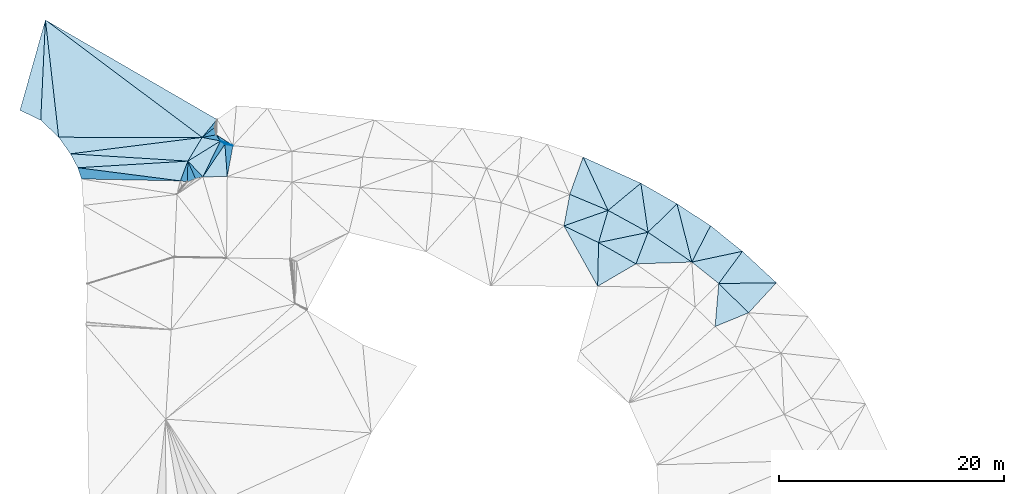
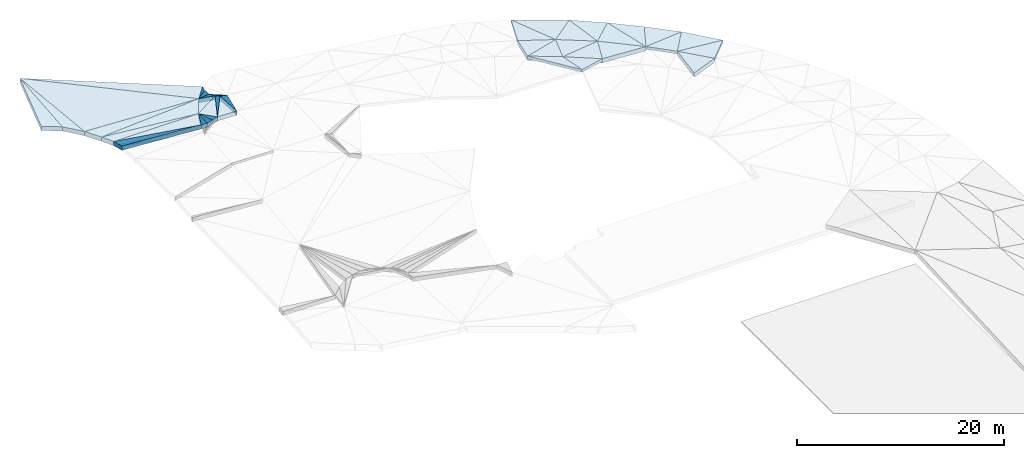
# One storey, part 9 of 23: 40 slabs, 4 elements without a shape of their own.
"""IFC2X3 building model written with IfcOpenShell, lengths in metres."""

import ifcopenshell
import ifcopenshell.guid

model = None  # the IFC model being written
_history = None  # IfcOwnerHistory: only IFC2X3 demands one
_inside = {}  # id of a spatial element -> (the spatial element, [elements in it])
_under = {}  # id of a project, library or spatial element -> (it, [spatial elements below it])
_declared = {}  # id of a project -> (the project, [libraries it declares])
_typed = {}  # id of a type object -> (the type object, [elements of that type])
_made_of = {}  # id of a material, layer set ... -> (it, [elements and type objects made of it])


def new_model(schema):
    """Start an empty IFC model of exactly this schema.

    Asked for "IFC4X3", IfcOpenShell would pick the latest addendum, in which some entities
    have other attributes; the version numbers below select the first issue.
    IFC2X3 requires an IfcOwnerHistory on every rooted entity: one is made here for all.
    """
    global model, _history
    if schema == "IFC4X3":
        model = ifcopenshell.file(schema_version=(4, 3, 0, 0))
    else:
        model = ifcopenshell.file(schema=schema)
    _inside.clear()
    _under.clear()
    _declared.clear()
    _typed.clear()
    _made_of.clear()
    _history = None
    if model.schema == "IFC2X3":
        org = make("IfcOrganization", Name="unknown")
        user = make(
            "IfcPersonAndOrganization",
            ThePerson=make("IfcPerson", FamilyName="unknown"),
            TheOrganization=org,
        )
        app = make(
            "IfcApplication",
            ApplicationDeveloper=org,
            Version="unknown",
            ApplicationFullName="unknown",
            ApplicationIdentifier="unknown",
        )
        _history = make(
            "IfcOwnerHistory",
            OwningUser=user,
            OwningApplication=app,
            ChangeAction="ADDED",
            CreationDate=0,
        )
    return model


def make(cls, **values):
    """One entity of the class cls with the attributes given. An attribute that is None is left unset."""
    return model.create_entity(
        cls, **{name: value for name, value in values.items() if value is not None}
    )


def entity(cls, *values):
    """Any entity or typed value of the class cls, its attributes in the order of the schema. None: left unset."""
    e = model.create_entity(cls)
    for i, value in enumerate(values):
        if value is not None:
            e[i] = value
    return e


def rooted(cls, **values):
    """An entity with a GlobalId (a new one), such as an element, a storey or a relation."""
    return make(cls, GlobalId=ifcopenshell.guid.new(), OwnerHistory=_history, **values)


def si_unit(unit_type, name, prefix=None):
    """IfcSIUnit, for example si_unit("LENGTHUNIT", "METRE", prefix="MILLI")."""
    return make("IfcSIUnit", UnitType=unit_type, Prefix=prefix, Name=name)


def converted_unit(unit_type, name, factor, base, dimensions=None, offset=None):
    """IfcConversionBasedUnit, such as the inch: factor (a typed value) times the base unit."""
    return make(
        "IfcConversionBasedUnit"
        if offset is None
        else "IfcConversionBasedUnitWithOffset",
        ConversionOffset=offset,
        Dimensions=None
        if dimensions is None
        else entity("IfcDimensionalExponents", *dimensions),
        UnitType=unit_type,
        Name=name,
        ConversionFactor=make(
            "IfcMeasureWithUnit", ValueComponent=factor, UnitComponent=base
        ),
    )


def assignment(units):
    """IfcUnitAssignment: the units of a project."""
    return None if units is None else make("IfcUnitAssignment", Units=units)


def point(xyz):
    """IfcCartesianPoint."""
    return None if xyz is None else make("IfcCartesianPoint", Coordinates=xyz)


def direction(xyz):
    """IfcDirection."""
    return None if xyz is None else make("IfcDirection", DirectionRatios=xyz)


def frame(location, z_axis=None, x_axis=None):
    """IfcAxis2Placement3D, a coordinate frame: its origin and axes. An axis left out is left unset."""
    return make(
        "IfcAxis2Placement3D",
        Location=point(location),
        Axis=direction(z_axis),
        RefDirection=direction(x_axis),
    )


def origin():
    """The frame at (0, 0, 0) with its axes left unset."""
    return frame((0.0, 0.0, 0.0))


def place(relative_to, where):
    """IfcLocalPlacement: puts the frame where relative to a parent placement (None: the world)."""
    return make(
        "IfcLocalPlacement", PlacementRelTo=relative_to, RelativePlacement=where
    )


def context(
    kind, dimensions, precision=None, world=None, true_north=None, identifier=None
):
    """IfcGeometricRepresentationContext, for example the 3D "Model" context."""
    return make(
        "IfcGeometricRepresentationContext",
        ContextIdentifier=identifier,
        ContextType=kind,
        CoordinateSpaceDimension=dimensions,
        Precision=precision,
        WorldCoordinateSystem=world,
        TrueNorth=true_north,
    )


def subcontext(parent, identifier, kind, view, scale=None):
    """IfcGeometricRepresentationSubContext, for example "Body" below "Model"."""
    return make(
        "IfcGeometricRepresentationSubContext",
        ContextIdentifier=identifier,
        ContextType=kind,
        ParentContext=parent,
        TargetScale=scale,
        TargetView=view,
    )


def project(units=None, contexts=None):
    """IfcProject with its units and contexts."""
    return rooted(
        "IfcProject",
        Name="project",
        RepresentationContexts=contexts,
        UnitsInContext=assignment(units),
    )


def spatial(cls, under=None, at=None, **own):
    """A site, building, storey or space (cls), placed at a placement, below another one or the project."""
    s = rooted(cls, ObjectPlacement=at, **own)
    if under is not None:
        _under.setdefault(under.id(), (under, []))[1].append(s)
    return s


def polyline(points):
    """IfcPolyline through the points."""
    return make("IfcPolyline", Points=[point(p) for p in points])


def outline(outer, holes=None, kind="AREA"):
    """IfcArbitraryClosedProfileDef: a profile drawn as a closed curve; with holes, ...WithVoids."""
    if holes is None:
        return make("IfcArbitraryClosedProfileDef", ProfileType=kind, OuterCurve=outer)
    return make(
        "IfcArbitraryProfileDefWithVoids",
        ProfileType=kind,
        OuterCurve=outer,
        InnerCurves=holes,
    )


def extrude(swept, where, along, depth):
    """IfcExtrudedAreaSolid: the profile swept, set in the frame where, extruded along a direction by depth."""
    return make(
        "IfcExtrudedAreaSolid",
        SweptArea=swept,
        Position=where,
        ExtrudedDirection=direction(along),
        Depth=depth,
    )


def shape(context_of_items, identifier, shape_type, items):
    """IfcShapeRepresentation: the items that make up one representation, for example the "Body"."""
    return make(
        "IfcShapeRepresentation",
        ContextOfItems=context_of_items,
        RepresentationIdentifier=identifier,
        RepresentationType=shape_type,
        Items=items,
    )


def material(Name=None, Category=None):
    """IfcMaterial."""
    return make("IfcMaterial", Name=Name, Category=Category)


def layer(
    of_material, thickness, ventilated=None, Name=None, Category=None, Priority=None
):
    """IfcMaterialLayer: one layer of a wall or slab, of a material (None: an air gap)."""
    return make(
        "IfcMaterialLayer",
        Material=of_material,
        LayerThickness=thickness,
        IsVentilated=ventilated,
        Name=Name,
        Category=Category,
        Priority=Priority,
    )


def layer_set(layers, Name=None):
    """IfcMaterialLayerSet."""
    return make("IfcMaterialLayerSet", MaterialLayers=layers, LayerSetName=Name)


def made_of(thing, what):
    """Note that an element or type object is made of a material, layer set ...; save() writes the relation."""
    if what is not None:
        _made_of.setdefault(what.id(), (what, []))[1].append(thing)
    return thing


def type_object(cls, material=None, **own):
    """A type object (cls), such as IfcWallType, which elements share."""
    return made_of(rooted(cls, **own), material)


def element(
    cls,
    number,
    at=None,
    inside=None,
    cuts=None,
    type_object=None,
    material=None,
    context=None,
    identifier="Body",
    shape_type=None,
    held_by="IfcProductDefinitionShape",
    body=None,
    shapes=None,
    **own,
):
    """One element of the class cls, such as IfcWall. Its Tag is "e" and its number.

    at: its placement. inside: the storey or other place that contains it. cuts: it is an
    opening in that element (IfcRelVoidsElement). A single representation is given by context,
    identifier, shape_type and body (its items); several are given by shapes. held_by: the class
    of the entity that holds the representations. save() writes the other relations.
    """
    e = rooted(cls, Tag="e%d" % number, ObjectPlacement=at, **own)
    if body is not None:
        shapes = [shape(context, identifier, shape_type, body)]
    if shapes is not None:
        e.Representation = make(held_by, Representations=shapes)
    if inside is not None:
        _inside.setdefault(inside.id(), (inside, []))[1].append(e)
    if cuts is not None:
        rooted(
            "IfcRelVoidsElement", RelatingBuildingElement=cuts, RelatedOpeningElement=e
        )
    if type_object is not None:
        _typed.setdefault(type_object.id(), (type_object, []))[1].append(e)
    return made_of(e, material)


def aggregate(whole, parts):
    """IfcRelAggregates: a whole, such as a stair, and the parts it consists of."""
    return rooted("IfcRelAggregates", RelatingObject=whole, RelatedObjects=parts)


def save(model, path):
    """Write the relations noted so far, then the file.

    IfcRelAggregates (storeys below a building ...), IfcRelContainedInSpatialStructure (elements
    in a storey), IfcRelDefinesByType, IfcRelAssociatesMaterial and IfcRelDeclares: one each for
    every whole, place, type object, material and project.
    """
    for whole, parts in _under.values():
        aggregate(whole, parts)
    for where, things in _inside.values():
        rooted(
            "IfcRelContainedInSpatialStructure",
            RelatedElements=things,
            RelatingStructure=where,
        )
    for kind, things in _typed.values():
        rooted("IfcRelDefinesByType", RelatedObjects=things, RelatingType=kind)
    for what, things in _made_of.values():
        rooted("IfcRelAssociatesMaterial", RelatedObjects=things, RelatingMaterial=what)
    for by, libraries in _declared.values():
        rooted("IfcRelDeclares", RelatingContext=by, RelatedDefinitions=libraries)
    model.write(path)


model = new_model("IFC2X3")

# Units and contexts
model_context = context("Model", 3, precision=1e-05, world=origin(), true_north=direction((0.7716245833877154, 0.6360782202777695)))
body_context = subcontext(model_context, "Body", "Model", "MODEL_VIEW")
ifc_project = project(units=[si_unit("LENGTHUNIT", "METRE"), converted_unit("PLANEANGLEUNIT", "DEGREE", entity("IfcPlaneAngleMeasure", 0.017453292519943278), si_unit("PLANEANGLEUNIT", "RADIAN"), dimensions=[0, 0, 0, 0, 0, 0, 0]), si_unit("AREAUNIT", "SQUARE_METRE")], contexts=[model_context])

# Site, building, storey
site_placement = place(None, origin())
site = spatial("IfcSite", under=ifc_project, at=site_placement, Name="Default", CompositionType="ELEMENT")
building_placement = place(site_placement, origin())
building = spatial("IfcBuilding", under=site, at=building_placement, Name="<Building Name>", CompositionType="ELEMENT")
storey_placement = place(building_placement, origin())
storey = spatial("IfcBuildingStorey", under=building, at=storey_placement, Name="00 - HAV", CompositionType="ELEMENT", Elevation=0.0)

# Slabs
slab_1_placement = place(storey_placement, frame((224.3175317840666, 93.71309800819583, 32.7900000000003)))
slab_1 = element("IfcSlab", 1, at=slab_1_placement, inside=storey, Name="Floor:771 Grøntarealer", ObjectType="Floor:771 Grøntarealer", PredefinedType="NOTDEFINED")
ifc_material_1 = material(Name="815 - Terrain, Grøntareal")
ifc_layer_1 = layer(ifc_material_1, 0.02)
ifc_material_2 = material(Name="Site - Soil - Jordlag")
ifc_layer_2 = layer(ifc_material_2, 0.30000000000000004)
ifc_layer_set_1 = layer_set([ifc_layer_1, ifc_layer_2], Name="Floor:771 Grøntarealer")
slab_type_1 = type_object("IfcSlabType", Name="Floor:771 Grøntarealer", PredefinedType="NOTDEFINED")
slab_2_placement = place(slab_1_placement, origin())
slab_2 = element("IfcSlab", 2, at=slab_2_placement, type_object=slab_type_1, material=ifc_layer_set_1, Name="Floor:771 Grøntarealer", ObjectType="Floor:771 Grøntarealer", PredefinedType="NOTDEFINED", context=body_context, shape_type="SweptSolid", body=[
    extrude(outline(polyline([(2.5223240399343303, 0.6709311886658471), (-0.8601433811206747, 2.464228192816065), (-0.9438238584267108, -1.5078112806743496), (2.5223240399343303, 0.6709311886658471)])), frame((38.51753136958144, 30.70189521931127, 4.013333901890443), z_axis=(0.19098121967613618, 0.20866909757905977, 0.9591576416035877), x_axis=(0.9815936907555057, -0.04059915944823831, -0.18661600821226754)), (0.18661600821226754, 0.21258194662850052, -0.9591576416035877), 0.3200000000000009),
])
slab_3_placement = place(slab_1_placement, origin())
slab_3 = element("IfcSlab", 3, at=slab_3_placement, type_object=slab_type_1, material=ifc_layer_set_1, Name="Floor:771 Grøntarealer", ObjectType="Floor:771 Grøntarealer", PredefinedType="NOTDEFINED", context=body_context, shape_type="SweptSolid", body=[
    extrude(outline(polyline([(1.6046446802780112, 1.2883867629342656), (-1.5211546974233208, 2.6836567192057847), (1.5211546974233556, -2.6836567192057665), (1.6046446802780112, 1.2883867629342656)])), frame((36.09451712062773, 31.94701533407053, 4.204999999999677), z_axis=(0.1790864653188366, 0.2093943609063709, 0.961291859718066), x_axis=(0.9838333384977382, -0.03811590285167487, -0.17498325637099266)), (0.17498325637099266, 0.21283519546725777, -0.961291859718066), 0.3200000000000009),
])
aggregate(slab_1, [slab_2, slab_3])

slab_4_placement = place(storey_placement, frame((227.93461709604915, 49.93152636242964, 29.770000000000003)))
slab_4 = element("IfcSlab", 4, at=slab_4_placement, inside=storey, Name="Floor:771 Grøntarealer", ObjectType="Floor:771 Grøntarealer", PredefinedType="NOTDEFINED")
slab_5_placement = place(slab_4_placement, origin())
slab_5 = element("IfcSlab", 5, at=slab_5_placement, type_object=slab_type_1, material=ifc_layer_set_1, Name="Floor:771 Grøntarealer", ObjectType="Floor:771 Grøntarealer", PredefinedType="NOTDEFINED", context=body_context, shape_type="SweptSolid", body=[
    extrude(outline(polyline([(2.7119179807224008, -0.0993393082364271), (-0.31689608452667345, 2.6951705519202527), (-2.428761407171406, -0.16191272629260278), (2.7119179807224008, -0.0993393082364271)])), frame((47.14040868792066, 73.45681839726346, 5.535892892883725), z_axis=(0.10130563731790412, -0.011814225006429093, 0.9947851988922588), x_axis=(0.9948553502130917, 0.0012030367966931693, -0.1012984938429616)), (0.1012984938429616, -0.011875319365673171, -0.9947851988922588), 0.3200000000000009),
])
slab_6_placement = place(slab_4_placement, origin())
slab_6 = element("IfcSlab", 6, at=slab_6_placement, type_object=slab_type_1, material=ifc_layer_set_1, Name="Floor:771 Grøntarealer", ObjectType="Floor:771 Grøntarealer", PredefinedType="NOTDEFINED", context=body_context, shape_type="SweptSolid", body=[
    extrude(outline(polyline([(2.548039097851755, 1.36095444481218), (-2.592296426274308, 1.274637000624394), (0.06928154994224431, -1.3170039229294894), (2.548039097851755, 1.36095444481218)])), frame((47.303274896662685, 72.00925611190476, 5.56238500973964), z_axis=(0.10064993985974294, 0.033680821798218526, 0.9943516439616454), x_axis=(0.994921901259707, -0.0034072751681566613, -0.10059225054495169)), (0.10059225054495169, 0.033852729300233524, -0.9943516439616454), 0.3200000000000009),
])
slab_7_placement = place(slab_4_placement, origin())
slab_7 = element("IfcSlab", 7, at=slab_7_placement, type_object=slab_type_1, material=ifc_layer_set_1, Name="Floor:771 Grøntarealer", ObjectType="Floor:771 Grøntarealer", PredefinedType="NOTDEFINED", context=body_context, shape_type="SweptSolid", body=[
    extrude(outline(polyline([(2.5297405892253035, 0.25929816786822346), (-0.3102082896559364, 2.524003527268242), (-1.9765035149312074, -0.7004747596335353), (2.5297405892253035, 0.25929816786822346)])), frame((44.30508411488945, 75.89588520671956, 5.825454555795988), z_axis=(0.08740548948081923, 0.016799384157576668, 0.9960311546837), x_axis=(0.9961728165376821, -0.0014739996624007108, -0.08739305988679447)), (0.08739305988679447, 0.01686392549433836, -0.9960311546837), 0.3200000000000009),
])
slab_8_placement = place(slab_4_placement, origin())
slab_8 = element("IfcSlab", 8, at=slab_8_placement, type_object=slab_type_1, material=ifc_layer_set_1, Name="Floor:771 Grøntarealer", ObjectType="Floor:771 Grøntarealer", PredefinedType="NOTDEFINED", context=body_context, shape_type="SweptSolid", body=[
    extrude(outline(polyline([(2.010351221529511, 1.6307822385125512), (-2.497760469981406, 0.6798201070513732), (-0.09959519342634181, -1.2277184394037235), (2.010351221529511, 1.6307822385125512)])), frame((44.82331533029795, 74.51974387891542, 5.776888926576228), z_axis=(0.09198785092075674, -0.004907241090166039, 0.9957480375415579), x_axis=(0.9957601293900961, 0.00045332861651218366, -0.09198673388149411)), (0.09198673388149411, -0.004928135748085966, -0.9957480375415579), 0.3200000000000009),
])
slab_9_placement = place(slab_4_placement, origin())
slab_9 = element("IfcSlab", 9, at=slab_9_placement, type_object=slab_type_1, material=ifc_layer_set_1, Name="Floor:771 Grøntarealer", ObjectType="Floor:771 Grøntarealer", PredefinedType="NOTDEFINED", context=body_context, shape_type="SweptSolid", body=[
    extrude(outline(polyline([(2.3350661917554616, 0.6371348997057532), (-0.6645507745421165, 2.5851590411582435), (0.664550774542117, -2.585159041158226), (2.3350661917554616, 0.6371348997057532)])), frame((41.675810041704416, 77.78384557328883, 6.074999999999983), z_axis=(0.1124604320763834, 0.0037418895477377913, 0.9936491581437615), x_axis=(0.9936562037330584, -0.0004235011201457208, -0.11245963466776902)), (0.11245963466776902, 0.0037657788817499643, -0.9936491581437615), 0.3200000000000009),
])
slab_10_placement = place(slab_4_placement, origin())
slab_10 = element("IfcSlab", 10, at=slab_10_placement, type_object=slab_type_1, material=ifc_layer_set_1, Name="Floor:771 Grøntarealer", ObjectType="Floor:771 Grøntarealer", PredefinedType="NOTDEFINED", context=body_context, shape_type="SweptSolid", body=[
    extrude(outline(polyline([(2.468564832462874, 0.5968334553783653), (-0.75394695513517, 2.425198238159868), (-0.11180598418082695, -1.9339937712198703), (2.468564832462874, 0.5968334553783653)])), frame((38.56009656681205, 79.77280217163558, 6.395671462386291), z_axis=(0.10322250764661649, 0.0014336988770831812, 0.9946572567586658), x_axis=(0.9946582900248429, -0.0001487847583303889, -0.10322240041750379)), (0.10322240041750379, 0.0014413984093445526, -0.9946572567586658), 0.3200000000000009),
])
slab_11_placement = place(slab_4_placement, origin())
slab_11 = element("IfcSlab", 11, at=slab_11_placement, type_object=slab_type_1, material=ifc_layer_set_1, Name="Floor:771 Grøntarealer", ObjectType="Floor:771 Grøntarealer", PredefinedType="NOTDEFINED", context=body_context, shape_type="SweptSolid", body=[
    extrude(outline(polyline([(-0.32773229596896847, 2.9150247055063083), (-2.9081191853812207, 0.3842138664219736), (1.0000384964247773, -2.255635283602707), (-0.32773229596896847, 2.9150247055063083)])), frame((41.341454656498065, 77.45419908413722, 6.110173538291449), z_axis=(0.10328219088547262, 0.0013725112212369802, 0.994651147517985), x_axis=(0.9946520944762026, -0.00014251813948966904, -0.10328209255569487)), (0.10328209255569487, 0.0013798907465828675, -0.994651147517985), 0.3200000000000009),
])
slab_12_placement = place(slab_4_placement, origin())
slab_12 = element("IfcSlab", 12, at=slab_12_placement, type_object=slab_type_1, material=ifc_layer_set_1, Name="Floor:771 Grøntarealer", ObjectType="Floor:771 Grøntarealer", PredefinedType="NOTDEFINED", context=body_context, shape_type="SweptSolid", body=[
    extrude(outline(polyline([(3.2696299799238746, 0.3867003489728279), (-1.8700317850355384, 2.7097967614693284), (0.35139291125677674, -2.0233810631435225), (3.2696299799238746, 0.3867003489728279)])), frame((34.54934999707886, 81.8090425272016, 6.705905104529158), z_axis=(0.07333115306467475, -0.009926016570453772, 0.9972582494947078), x_axis=(0.997307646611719, 0.000729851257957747, -0.07332752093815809)), (0.07332752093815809, -0.00995281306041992, -0.9972582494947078), 0.3200000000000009),
])
slab_13_placement = place(slab_4_placement, origin())
slab_13 = element("IfcSlab", 13, at=slab_13_placement, type_object=slab_type_1, material=ifc_layer_set_1, Name="Floor:771 Grøntarealer", ObjectType="Floor:771 Grøntarealer", PredefinedType="NOTDEFINED", context=body_context, shape_type="SweptSolid", body=[
    extrude(outline(polyline([(0.25824912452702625, 2.6578079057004), (-2.6589284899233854, 0.24644423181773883), (0.898451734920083, -1.7016691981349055), (0.25824912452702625, 2.6578079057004)])), frame((37.552529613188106, 79.54025482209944, 6.477668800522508), z_axis=(0.0682266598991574, -0.003735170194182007, 0.997662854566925), x_axis=(0.9976698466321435, 0.00025543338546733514, -0.0682261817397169)), (0.0682261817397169, -0.0037438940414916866, -0.997662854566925), 0.3200000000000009),
])
slab_14_placement = place(slab_4_placement, origin())
slab_14 = element("IfcSlab", 14, at=slab_14_placement, type_object=slab_type_1, material=ifc_layer_set_1, Name="Floor:771 Grøntarealer", ObjectType="Floor:771 Grøntarealer", PredefinedType="NOTDEFINED", context=body_context, shape_type="SweptSolid", body=[
    extrude(outline(polyline([(-1.1091080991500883, 2.3673411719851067), (-2.2959568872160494, -0.9420228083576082), (1.109108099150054, -2.3673411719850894), (-1.1091080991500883, 2.3673411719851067)])), frame((33.7920749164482, 82.15167918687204, 6.765), z_axis=(0.04998069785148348, -0.02091637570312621, 0.9985311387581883), x_axis=(0.9987501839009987, 0.001046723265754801, -0.04996973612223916)), (0.04996973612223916, -0.020942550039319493, -0.9985311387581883), 0.3200000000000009),
])
slab_15_placement = place(slab_4_placement, origin())
slab_15 = element("IfcSlab", 15, at=slab_15_placement, type_object=slab_type_1, material=ifc_layer_set_1, Name="Floor:771 Grøntarealer", ObjectType="Floor:771 Grøntarealer", PredefinedType="NOTDEFINED", context=body_context, shape_type="SweptSolid", body=[
    extrude(outline(polyline([(-0.7357714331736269, 0.4819132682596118), (-0.37592185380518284, -0.06389647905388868), (0.7357714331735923, -0.4819132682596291), (-0.7357714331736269, 0.4819132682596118)])), frame((0.8682996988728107, 86.01094406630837, 8.319999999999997), z_axis=(0.04786515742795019, 0.03150539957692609, 0.9983568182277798), x_axis=(0.9988538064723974, -0.0015097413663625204, -0.04784134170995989)), (0.04784134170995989, 0.03154155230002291, -0.9983568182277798), 0.3200000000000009),
])
slab_16_placement = place(slab_4_placement, origin())
slab_16 = element("IfcSlab", 16, at=slab_16_placement, type_object=slab_type_1, material=ifc_layer_set_1, Name="Floor:771 Grøntarealer", ObjectType="Floor:771 Grøntarealer", PredefinedType="NOTDEFINED", context=body_context, shape_type="SweptSolid", body=[
    extrude(outline(polyline([(-0.5567331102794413, 0.20663553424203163), (-0.1641069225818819, -0.07822351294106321), (0.5567331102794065, -0.20663553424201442), (-0.5567331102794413, 0.20663553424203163)])), frame((1.0480182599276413, 85.7379033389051, 8.320000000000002), z_axis=(0.07393090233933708, 0.1010978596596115, 0.9921257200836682), x_axis=(0.9972633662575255, -0.007494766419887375, -0.07355002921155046)), (0.07355002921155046, 0.10137528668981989, -0.9921257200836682), 0.3200000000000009),
])
aggregate(slab_4, [slab_5, slab_6, slab_7, slab_8, slab_9, slab_10, slab_11, slab_12, slab_13, slab_14, slab_15, slab_16])

slab_17_placement = place(storey_placement, frame((210.63176110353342, 32.75602782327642, 31.369999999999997)))
slab_17 = element("IfcSlab", 17, at=slab_17_placement, inside=storey, Name="Floor:761 Asfalt - Kjørearealer", ObjectType="Floor:761 Asfalt - Kjørearealer", PredefinedType="NOTDEFINED")
ifc_material_3 = material(Name="Site - Asphalt - Asfaltbetong")
ifc_layer_3 = layer(ifc_material_3, 0.03)
ifc_material_4 = material(Name="A_Default_Building_Part")
ifc_layer_4 = layer(ifc_material_4, 0.07)
ifc_material_5 = material(Name="Site - Gravel - Stabilitet grus")
ifc_layer_5 = layer(ifc_material_5, 0.2)
ifc_material_6 = material(Name="Site - Gravel - Bunnsikringsgrus")
ifc_layer_6 = layer(ifc_material_6, 0.2)
ifc_layer_set_2 = layer_set([ifc_layer_3, ifc_layer_4, ifc_layer_5, ifc_layer_6], Name="Floor:761 Asfalt - Kjørearealer")
slab_type_2 = type_object("IfcSlabType", Name="Floor:761 Asfalt - Kjørearealer", PredefinedType="NOTDEFINED")
slab_18_placement = place(slab_17_placement, origin())
slab_18 = element("IfcSlab", 18, at=slab_18_placement, type_object=slab_type_2, material=ifc_layer_set_2, Name="Floor:761 Asfalt - Kjørearealer", ObjectType="Floor:761 Asfalt - Kjørearealer", PredefinedType="NOTDEFINED", context=body_context, shape_type="SweptSolid", body=[
    extrude(outline(polyline([(4.223265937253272, -1.4656909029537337), (4.890374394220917, 0.2883804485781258), (-4.890374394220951, -0.28838044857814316), (4.223265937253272, -1.4656909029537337)])), frame((10.01901338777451, 101.04109860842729, 6.979999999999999), z_axis=(0.052303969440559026, -0.019861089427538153, 0.9984336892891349), x_axis=(0.9986312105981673, 0.0010402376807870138, -0.05229362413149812)), (0.05229362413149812, -0.019888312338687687, -0.9984336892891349), 0.49999999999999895),
])
slab_19_placement = place(slab_17_placement, origin())
slab_19 = element("IfcSlab", 19, at=slab_19_placement, type_object=slab_type_2, material=ifc_layer_set_2, Name="Floor:761 Asfalt - Kjørearealer", ObjectType="Floor:761 Asfalt - Kjørearealer", PredefinedType="NOTDEFINED", context=body_context, shape_type="SweptSolid", body=[
    extrude(outline(polyline([(4.61742823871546, -0.12394669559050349), (-4.4947775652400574, 1.0644157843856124), (-4.164237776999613, 0.06484415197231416), (4.61742823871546, -0.12394669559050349)])), frame((9.62466468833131, 99.69397341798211, 6.962433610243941), z_axis=(0.049210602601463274, -0.04371524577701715, 0.997831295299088), x_axis=(0.9987884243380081, 0.0021538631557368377, -0.04916344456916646)), (0.04916344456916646, -0.04376827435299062, -0.997831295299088), 0.49999999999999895),
])
slab_20_placement = place(slab_17_placement, origin())
slab_20 = element("IfcSlab", 20, at=slab_20_placement, type_object=slab_type_2, material=ifc_layer_set_2, Name="Floor:761 Asfalt - Kjørearealer", ObjectType="Floor:761 Asfalt - Kjørearealer", PredefinedType="NOTDEFINED", context=body_context, shape_type="SweptSolid", body=[
    extrude(outline(polyline([(4.581657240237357, -1.3905725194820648), (5.851512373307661, 0.7176893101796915), (-5.851512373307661, -0.7176893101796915), (4.581657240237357, -1.3905725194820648)])), frame((10.325619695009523, 102.71292921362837, 7.004999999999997), z_axis=(0.04471694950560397, -0.050565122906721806, 0.9977191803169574), x_axis=(0.9989996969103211, 0.002263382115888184, -0.04465963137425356)), (0.04465963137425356, -0.05061575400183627, -0.9977191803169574), 0.49999999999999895),
])
slab_21_placement = place(slab_17_placement, origin())
slab_21 = element("IfcSlab", 21, at=slab_21_placement, type_object=slab_type_2, material=ifc_layer_set_2, Name="Floor:761 Asfalt - Kjørearealer", ObjectType="Floor:761 Asfalt - Kjørearealer", PredefinedType="NOTDEFINED", context=body_context, shape_type="SweptSolid", body=[
    extrude(outline(polyline([(5.253992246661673, 0.27771793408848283), (-5.181550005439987, 0.9127438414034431), (-4.5253723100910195, -0.3220560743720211), (5.253992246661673, 0.27771793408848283)])), frame((9.65515058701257, 101.06373480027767, 6.997455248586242), z_axis=(0.0495314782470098, 0.026279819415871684, 0.9984267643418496), x_axis=(0.9987725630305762, -0.0013032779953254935, -0.049514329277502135)), (0.049514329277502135, 0.026312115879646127, -0.9984267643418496), 0.49999999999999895),
])
slab_22_placement = place(slab_17_placement, origin())
slab_22 = element("IfcSlab", 22, at=slab_22_placement, type_object=slab_type_2, material=ifc_layer_set_2, Name="Floor:761 Asfalt - Kjørearealer", ObjectType="Floor:761 Asfalt - Kjørearealer", PredefinedType="NOTDEFINED", context=body_context, shape_type="SweptSolid", body=[
    extrude(outline(polyline([(6.300564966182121, -6.014426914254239), (7.626418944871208, -4.430946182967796), (-7.626418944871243, 4.430946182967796), (6.300564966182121, -6.014426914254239)])), frame((9.87625378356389, 109.44439972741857, 7.254999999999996), z_axis=(0.04192599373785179, -0.03505232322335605, 0.9985056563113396), x_axis=(0.9991207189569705, 0.0014708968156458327, -0.04190018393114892)), (0.04190018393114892, -0.03508317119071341, -0.9985056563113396), 0.49999999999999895),
])
slab_23_placement = place(slab_17_placement, origin())
slab_23 = element("IfcSlab", 23, at=slab_23_placement, type_object=slab_type_2, material=ifc_layer_set_2, Name="Floor:761 Asfalt - Kjørearealer", ObjectType="Floor:761 Asfalt - Kjørearealer", PredefinedType="NOTDEFINED", context=body_context, shape_type="SweptSolid", body=[
    extrude(outline(polyline([(9.251178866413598, -2.171171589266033), (-4.677950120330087, 8.271340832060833), (-3.497940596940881, -2.141966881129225), (9.251178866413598, -2.171171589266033)])), frame((6.929657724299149, 105.60033792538, 7.2661923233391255), z_axis=(0.045444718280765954, -0.030352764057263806, 0.9985056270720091), x_axis=(0.9989668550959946, 0.0013807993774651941, -0.04542373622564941)), (0.04542373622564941, -0.030384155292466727, -0.9985056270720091), 0.49999999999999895),
])
slab_24_placement = place(slab_17_placement, origin())
slab_24 = element("IfcSlab", 24, at=slab_24_placement, type_object=slab_type_2, material=ifc_layer_set_2, Name="Floor:761 Asfalt - Kjørearealer", ObjectType="Floor:761 Asfalt - Kjørearealer", PredefinedType="NOTDEFINED", context=body_context, shape_type="SweptSolid", body=[
    extrude(outline(polyline([(6.377081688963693, 0.7144644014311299), (-6.371995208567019, 0.7584901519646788), (-5.3262887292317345, -0.7180930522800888), (6.377081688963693, 0.7144644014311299)])), frame((9.800764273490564, 102.71340673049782, 7.028902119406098), z_axis=(0.04537134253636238, -0.05590212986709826, 0.9974048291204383), x_axis=(0.9989701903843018, 0.0025389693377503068, -0.04530024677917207)), (0.04530024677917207, -0.0559597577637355, -0.9974048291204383), 0.49999999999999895),
])
slab_25_placement = place(slab_17_placement, origin())
slab_25 = element("IfcSlab", 25, at=slab_25_placement, type_object=slab_type_2, material=ifc_layer_set_2, Name="Floor:761 Asfalt - Kjørearealer", ObjectType="Floor:761 Asfalt - Kjørearealer", PredefinedType="NOTDEFINED", context=body_context, shape_type="SweptSolid", body=[
    extrude(outline(polyline([(0.20887060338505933, 4.449109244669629), (-2.056032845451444, -3.5645236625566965), (-0.20887060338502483, -4.449109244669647), (0.20887060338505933, 4.449109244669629)])), frame((2.0484412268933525, 109.41316552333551, 7.639999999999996), z_axis=(0.08585506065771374, -0.024168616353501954, 0.9960144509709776), x_axis=(0.996307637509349, 0.0020826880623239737, -0.08582979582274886)), (0.08582979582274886, -0.02425818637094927, -0.9960144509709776), 0.49999999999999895),
])
slab_26_placement = place(slab_17_placement, origin())
slab_26 = element("IfcSlab", 26, at=slab_26_placement, type_object=slab_type_2, material=ifc_layer_set_2, Name="Floor:761 Asfalt - Kjørearealer", ObjectType="Floor:761 Asfalt - Kjørearealer", PredefinedType="NOTDEFINED", context=body_context, shape_type="SweptSolid", body=[
    extrude(outline(polyline([(-0.5920876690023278, 5.206417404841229), (-1.010187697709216, -3.691784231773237), (0.5920876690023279, -5.206417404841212), (-0.5920876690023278, 5.206417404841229)])), frame((2.8459358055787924, 108.65796528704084, 7.5449999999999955), z_axis=(0.09525832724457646, -0.024591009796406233, 0.995148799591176), x_axis=(0.995452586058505, 0.002353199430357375, -0.09522925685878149)), (0.09522925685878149, -0.024703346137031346, -0.995148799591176), 0.49999999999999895),
])
aggregate(slab_17, [slab_18, slab_19, slab_20, slab_21, slab_22, slab_23, slab_24, slab_25, slab_26])

slab_27_placement = place(storey_placement, frame((224.56733296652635, 45.19076679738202, 29.34)))
slab_27 = element("IfcSlab", 27, at=slab_27_placement, inside=storey, Name="Floor:761 Asfalt - Gangarealer", ObjectType="Floor:761 Asfalt - Gangarealer", PredefinedType="NOTDEFINED")
ifc_material_7 = material(Name="Site - Aspahlt - Pulverasfalt")
ifc_layer_7 = layer(ifc_material_7, 0.025)
ifc_layer_8 = layer(ifc_material_4, 0.05)
ifc_layer_9 = layer(ifc_material_5, 0.1)
ifc_layer_10 = layer(ifc_material_6, 0.325)
ifc_layer_set_3 = layer_set([ifc_layer_7, ifc_layer_8, ifc_layer_9, ifc_layer_10], Name="Floor:761 Asfalt - Gangarealer")
slab_type_3 = type_object("IfcSlabType", Name="Floor:761 Asfalt - Gangarealer", PredefinedType="NOTDEFINED")
slab_28_placement = place(slab_27_placement, origin())
slab_28 = element("IfcSlab", 28, at=slab_28_placement, type_object=slab_type_3, material=ifc_layer_set_3, Name="Floor:761 Asfalt - Gangarealer", ObjectType="Floor:761 Asfalt - Gangarealer", PredefinedType="NOTDEFINED", context=body_context, shape_type="SweptSolid", body=[
    extrude(outline(polyline([(0.5524615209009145, 0.884095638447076), (-0.7722266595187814, -0.7003604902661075), (0.35935055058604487, 0.20652043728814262), (0.5524615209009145, 0.884095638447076)])), frame((3.0079335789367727, 91.70856431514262, 8.80999999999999)), (0.0, 0.0, -1.0), 0.49999999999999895),
])
slab_29_placement = place(slab_27_placement, origin())
slab_29 = element("IfcSlab", 29, at=slab_29_placement, type_object=slab_type_3, material=ifc_layer_set_3, Name="Floor:761 Asfalt - Gangarealer", ObjectType="Floor:761 Asfalt - Gangarealer", PredefinedType="NOTDEFINED", context=body_context, shape_type="SweptSolid", body=[
    extrude(outline(polyline([(-0.17792880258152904, 1.214944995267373), (-1.4467153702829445, -0.8939600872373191), (1.4467153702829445, 0.8939600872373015), (-0.17792880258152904, 1.214944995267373)])), frame((2.413607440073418, 89.79408834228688, 8.765), z_axis=(0.017829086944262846, -0.034423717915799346, 0.9992482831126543), x_axis=(0.999841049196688, 0.0006138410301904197, -0.017818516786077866)), (0.017818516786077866, -0.03442919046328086, -0.9992482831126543), 0.49999999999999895),
])
slab_30_placement = place(slab_27_placement, origin())
slab_30 = element("IfcSlab", 30, at=slab_30_placement, type_object=slab_type_3, material=ifc_layer_set_3, Name="Floor:761 Asfalt - Gangarealer", ObjectType="Floor:761 Asfalt - Gangarealer", PredefinedType="NOTDEFINED", context=body_context, shape_type="SweptSolid", body=[
    extrude(outline(polyline([(-0.8574474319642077, -0.06938189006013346), (0.7675881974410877, -0.3883790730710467), (0.4080073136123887, 0.1576077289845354), (-0.8574474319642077, -0.06938189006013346)])), frame((3.0928115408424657, 91.07712231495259, 8.784468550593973), z_axis=(0.028274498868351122, 0.018610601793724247, 0.9994269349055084), x_axis=(0.9996001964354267, -0.0005264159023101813, -0.02826959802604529)), (0.02826959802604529, 0.01861804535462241, -0.9994269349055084), 0.49999999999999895),
])
slab_31_placement = place(slab_27_placement, origin())
slab_31 = element("IfcSlab", 31, at=slab_31_placement, type_object=slab_type_3, material=ifc_layer_set_3, Name="Floor:761 Asfalt - Gangarealer", ObjectType="Floor:761 Asfalt - Gangarealer", PredefinedType="NOTDEFINED", context=body_context, shape_type="SweptSolid", body=[
    extrude(outline(polyline([(-0.5724982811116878, -0.45396093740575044), (0.6934955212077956, -0.22999734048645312), (0.5600137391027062, 0.45175233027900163), (-0.5724982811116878, -0.45396093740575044)])), frame((2.8077326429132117, 91.46276003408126, 8.809802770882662), z_axis=(0.040622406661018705, -0.05068734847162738, 0.9978880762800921), x_axis=(0.9991745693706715, 0.002060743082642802, -0.040570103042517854)), (0.040570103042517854, -0.05072922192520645, -0.9978880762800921), 0.49999999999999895),
])
slab_32_placement = place(slab_27_placement, origin())
slab_32 = element("IfcSlab", 32, at=slab_32_placement, type_object=slab_type_3, material=ifc_layer_set_3, Name="Floor:761 Asfalt - Gangarealer", ObjectType="Floor:761 Asfalt - Gangarealer", PredefinedType="NOTDEFINED", context=body_context, shape_type="SweptSolid", body=[
    extrude(outline(polyline([(0.04499098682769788, 0.9866179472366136), (-0.6212272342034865, -0.7677993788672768), (0.0018332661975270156, -0.8633110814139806), (0.04499098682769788, 0.9866179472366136)])), frame((0.9221325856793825, 87.91315219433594, 8.759817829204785), z_axis=(-0.008290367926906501, 0.00019340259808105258, 0.9999656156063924), x_axis=(0.9999656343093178, 1.6034337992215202e-06, 0.00829036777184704)), (-0.00829036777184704, 0.00019340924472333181, -0.9999656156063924), 0.49999999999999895),
])
slab_33_placement = place(slab_27_placement, origin())
slab_33 = element("IfcSlab", 33, at=slab_33_placement, type_object=slab_type_3, material=ifc_layer_set_3, Name="Floor:761 Asfalt - Gangarealer", ObjectType="Floor:761 Asfalt - Gangarealer", PredefinedType="NOTDEFINED", context=body_context, shape_type="SweptSolid", body=[
    extrude(outline(polyline([(-0.33048961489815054, 0.9331852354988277), (-0.37368502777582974, -0.9167429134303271), (0.33789973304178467, -0.615832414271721), (-0.33048961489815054, 0.9331852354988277)])), frame((1.2973119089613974, 87.96659941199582, 8.745000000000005), z_axis=(0.04257987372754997, -0.000993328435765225, 0.9990925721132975), x_axis=(0.9990930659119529, 4.233419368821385e-05, -0.042579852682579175)), (0.042579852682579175, -0.000994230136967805, -0.9990925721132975), 0.49999999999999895),
])
slab_34_placement = place(slab_27_placement, origin())
slab_34 = element("IfcSlab", 34, at=slab_34_placement, type_object=slab_type_3, material=ifc_layer_set_3, Name="Floor:761 Asfalt - Gangarealer", ObjectType="Floor:761 Asfalt - Gangarealer", PredefinedType="NOTDEFINED", context=body_context, shape_type="SweptSolid", body=[
    extrude(outline(polyline([(-0.6655014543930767, 0.6954371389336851), (0.003138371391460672, -0.8534724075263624), (0.6655014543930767, -0.6954371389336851), (-0.6655014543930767, 0.6954371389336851)])), frame((1.6317708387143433, 88.20353607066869, 8.765), z_axis=(-0.05060398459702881, -0.04114208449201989, 0.9978710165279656), x_axis=(0.9987187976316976, -0.0020846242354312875, 0.0505610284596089)), (-0.0505610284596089, -0.04119486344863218, -0.9978710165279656), 0.49999999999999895),
])
slab_35_placement = place(slab_27_placement, origin())
slab_35 = element("IfcSlab", 35, at=slab_35_placement, type_object=slab_type_3, material=ifc_layer_set_3, Name="Floor:761 Asfalt - Gangarealer", ObjectType="Floor:761 Asfalt - Gangarealer", PredefinedType="NOTDEFINED", context=body_context, shape_type="SweptSolid", body=[
    extrude(outline(polyline([(-1.8681347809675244, -0.45263407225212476), (-0.5388207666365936, -1.8451225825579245), (1.0248717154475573, 1.3359724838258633), (-1.8681347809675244, -0.45263407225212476)])), frame((2.8352337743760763, 89.35242556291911, 8.768171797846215), z_axis=(-0.004965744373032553, 0.0024409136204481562, 0.9999846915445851), x_axis=(0.999987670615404, 1.2121102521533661e-05, 0.004965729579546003)), (-0.004965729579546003, 0.0024409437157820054, -0.9999846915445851), 0.49999999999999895),
])
slab_36_placement = place(slab_27_placement, origin())
slab_36 = element("IfcSlab", 36, at=slab_36_placement, type_object=slab_type_3, material=ifc_layer_set_3, Name="Floor:761 Asfalt - Gangarealer", ObjectType="Floor:761 Asfalt - Gangarealer", PredefinedType="NOTDEFINED", context=body_context, shape_type="SweptSolid", body=[
    extrude(outline(polyline([(-1.0783153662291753, -1.4473697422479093), (1.090926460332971, -1.4378882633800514), (0.878249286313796, 1.446495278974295), (-1.0783153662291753, -1.4473697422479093)])), frame((3.3739966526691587, 88.95521679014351, 8.766310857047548), z_axis=(0.0370001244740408, -0.024991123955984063, 0.9990027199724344), x_axis=(0.9993152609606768, 0.0009253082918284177, -0.036988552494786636)), (0.036988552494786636, -0.025008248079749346, -0.9990027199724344), 0.49999999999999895),
])
slab_37_placement = place(slab_27_placement, origin())
slab_37 = element("IfcSlab", 37, at=slab_37_placement, type_object=slab_type_3, material=ifc_layer_set_3, Name="Floor:761 Asfalt - Gangarealer", ObjectType="Floor:761 Asfalt - Gangarealer", PredefinedType="NOTDEFINED", context=body_context, shape_type="SweptSolid", body=[
    extrude(outline(polyline([(-0.7818366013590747, -1.5905522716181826), (1.1733883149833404, 1.3042181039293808), (0.7818366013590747, 1.5905522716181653), (-0.7818366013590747, -1.5905522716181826)])), frame((3.0782562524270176, 89.09785421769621, 8.77)), (0.0, 0.0, -1.0), 0.49999999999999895),
])
slab_38_placement = place(slab_27_placement, origin())
slab_38 = element("IfcSlab", 38, at=slab_38_placement, type_object=slab_type_3, material=ifc_layer_set_3, Name="Floor:761 Asfalt - Gangarealer", ObjectType="Floor:761 Asfalt - Gangarealer", PredefinedType="NOTDEFINED", context=body_context, shape_type="SweptSolid", body=[
    extrude(outline(polyline([(0.10640490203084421, -1.4421868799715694), (0.6134036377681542, 1.3081135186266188), (-0.1064049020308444, 1.4421868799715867), (0.10640490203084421, -1.4421868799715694)])), frame((4.357910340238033, 88.96042999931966, 8.729999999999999), z_axis=(0.05112123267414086, -0.023933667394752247, 0.9984056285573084), x_axis=(0.9986924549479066, 0.00122512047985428, -0.05110655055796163)), (0.05110655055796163, -0.023965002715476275, -0.9984056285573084), 0.49999999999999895),
])
slab_39_placement = place(slab_27_placement, origin())
slab_39 = element("IfcSlab", 39, at=slab_39_placement, type_object=slab_type_3, material=ifc_layer_set_3, Name="Floor:761 Asfalt - Gangarealer", ObjectType="Floor:761 Asfalt - Gangarealer", PredefinedType="NOTDEFINED", context=body_context, shape_type="SweptSolid", body=[
    extrude(outline(polyline([(-2.1807202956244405, -0.5820061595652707), (0.9026472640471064, -2.0686952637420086), (1.748532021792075, 0.7903918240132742), (-2.1807202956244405, -0.5820061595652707)])), frame((36.523143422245, 83.73424141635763, 7.202479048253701), z_axis=(0.07244541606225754, -0.017885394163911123, 0.9972120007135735), x_axis=(0.9973723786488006, 0.0012991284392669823, -0.0724337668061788)), (0.0724337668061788, -0.01793251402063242, -0.9972120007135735), 0.49999999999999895),
])
slab_40_placement = place(slab_27_placement, origin())
slab_40 = element("IfcSlab", 40, at=slab_40_placement, type_object=slab_type_3, material=ifc_layer_set_3, Name="Floor:761 Asfalt - Gangarealer", ObjectType="Floor:761 Asfalt - Gangarealer", PredefinedType="NOTDEFINED", context=body_context, shape_type="SweptSolid", body=[
    extrude(outline(polyline([(-1.5541206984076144, -1.854469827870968), (2.372551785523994, -0.47470781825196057), (-1.0349783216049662, 0.9447070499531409), (-1.5541206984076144, -1.854469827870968)])), frame((35.89920866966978, 85.00292130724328, 7.234282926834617), z_axis=(0.06277579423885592, 0.009773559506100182, 0.9979797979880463), x_axis=(0.9980276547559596, -0.0006147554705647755, -0.06277278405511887)), (0.06277278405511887, 0.009792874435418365, -0.9979797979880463), 0.49999999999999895),
])
slab_41_placement = place(slab_27_placement, origin())
slab_41 = element("IfcSlab", 41, at=slab_41_placement, type_object=slab_type_3, material=ifc_layer_set_3, Name="Floor:761 Asfalt - Gangarealer", ObjectType="Floor:761 Asfalt - Gangarealer", PredefinedType="NOTDEFINED", context=body_context, shape_type="SweptSolid", body=[
    extrude(outline(polyline([(-2.3973084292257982, -0.3415768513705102), (0.9295837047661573, -2.235986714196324), (2.0042870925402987, 0.5653723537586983), (-2.3973084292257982, -0.3415768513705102)])), frame((39.815911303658, 82.01170341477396, 6.955233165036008), z_axis=(0.06335456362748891, -0.020688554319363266, 0.9977766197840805), x_axis=(0.9979910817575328, 0.0013133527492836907, -0.06334094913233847)), (0.06334094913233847, -0.020730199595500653, -0.9977766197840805), 0.49999999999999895),
])
slab_42_placement = place(slab_27_placement, origin())
slab_42 = element("IfcSlab", 42, at=slab_42_placement, type_object=slab_type_3, material=ifc_layer_set_3, Name="Floor:761 Asfalt - Gangarealer", ObjectType="Floor:761 Asfalt - Gangarealer", PredefinedType="NOTDEFINED", context=body_context, shape_type="SweptSolid", body=[
    extrude(outline(polyline([(-1.934845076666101, -1.7417982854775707), (2.466416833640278, -0.8332315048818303), (-1.0895487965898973, 1.1174628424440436), (-1.934845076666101, -1.7417982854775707)])), frame((39.354523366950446, 83.41044576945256, 7.005668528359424), z_axis=(0.06215147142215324, -0.014845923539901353, 0.9979563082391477), x_axis=(0.9980667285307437, 0.0009244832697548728, -0.06214459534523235)), (0.06214459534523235, -0.01487468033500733, -0.9979563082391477), 0.49999999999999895),
])
slab_43_placement = place(slab_27_placement, origin())
slab_43 = element("IfcSlab", 43, at=slab_43_placement, type_object=slab_type_3, material=ifc_layer_set_3, Name="Floor:761 Asfalt - Gangarealer", ObjectType="Floor:761 Asfalt - Gangarealer", PredefinedType="NOTDEFINED", context=body_context, shape_type="SweptSolid", body=[
    extrude(outline(polyline([(-2.446851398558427, -1.4579203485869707), (2.5302346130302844, -1.3078709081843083), (-1.3705692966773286, 1.3428325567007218), (-2.446851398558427, -1.4579203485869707)])), frame((43.18198154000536, 81.24053911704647, 6.687765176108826), z_axis=(0.08326779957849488, -0.028316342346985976, 0.9961248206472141), x_axis=(0.9965272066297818, 0.002366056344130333, -0.08323417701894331)), (0.08323417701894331, -0.028415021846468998, -0.9961248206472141), 0.49999999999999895),
])
slab_44_placement = place(slab_27_placement, origin())
slab_44 = element("IfcSlab", 44, at=slab_44_placement, type_object=slab_type_3, material=ifc_layer_set_3, Name="Floor:761 Asfalt - Gangarealer", ObjectType="Floor:761 Asfalt - Gangarealer", PredefinedType="NOTDEFINED", context=body_context, shape_type="SweptSolid", body=[
    extrude(outline(polyline([(-0.8410541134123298, -2.188138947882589), (2.1336176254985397, -0.9710818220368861), (-0.5157894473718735, 1.6330000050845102), (-0.8410541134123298, -2.188138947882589)])), frame((48.60695416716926, 76.40146031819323, 6.133596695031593), z_axis=(0.0318583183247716, -0.03671265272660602, 0.9988179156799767), x_axis=(0.999492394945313, 0.0011701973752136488, -0.03183681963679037)), (0.03183681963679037, -0.036731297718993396, -0.9988179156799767), 0.49999999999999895),
])
aggregate(slab_27, [slab_28, slab_29, slab_30, slab_31, slab_32, slab_33, slab_34, slab_35, slab_36, slab_37, slab_38, slab_39, slab_40, slab_41, slab_42, slab_43, slab_44])

save(model, "model.ifc")
